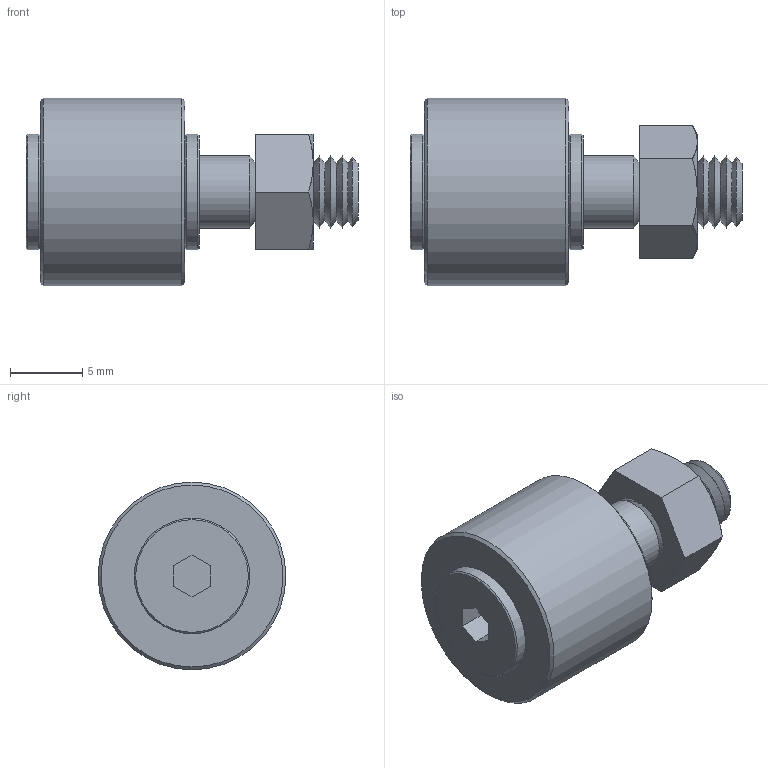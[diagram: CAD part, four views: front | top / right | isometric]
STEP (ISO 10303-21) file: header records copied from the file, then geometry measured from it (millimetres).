
FILE_DESCRIPTION((''),'1');
FILE_NAME('C:/Users/t-inoue/Desktop/IMCF-5C.stp','2016-05-20T02:52:02',(''),(''),'Spatial Interop R21 SP3','Kubotek KeyCreator 2011 V10.0.2 (22737)',' ');
FILE_SCHEMA(('automotive_design'));
Length unit declared in the file: millimetre
Products named in the file (48): Unnamed[1]
Bounding box: 23 x 13 x 13 mm (x, y, z)
Surface area: 1072.4 mm2 (no closed solid volume)
Topology: 0 solids, 48 shells, 48 faces, 170 edges, 148 vertices
Faces by surface type: cone 24, plane 20, cylinder 4
Full cylindrical faces by diameter (mm): 5 x1, 8 x2, 13 x1
Entity records: 3706 total; most frequent: CARTESIAN_POINT 434, DIRECTION 374, PRESENTATION_STYLE_ASSIGNMENT 192, COLOUR_RGB 192, AXIS2_PLACEMENT_3D 157, ORIENTED_EDGE 145, EDGE_CURVE 145, VERTEX_POINT 145
